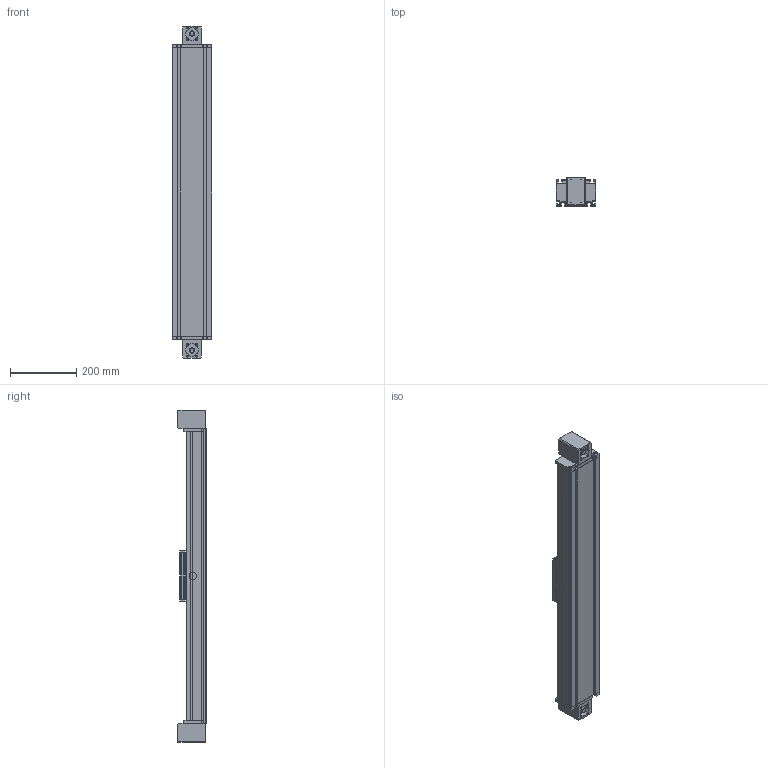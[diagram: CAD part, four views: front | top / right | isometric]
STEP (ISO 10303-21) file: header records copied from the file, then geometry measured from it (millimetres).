
FILE_DESCRIPTION (( 'STEP AP214' ), '1' );
FILE_NAME ('DLVZ120.STEP', '2022-07-22T09:59:19', ( '' ), ( '' ), 'SwSTEP 2.0', 'SolidWorks 2020', '' );
FILE_SCHEMA (( 'AUTOMOTIVE_DESIGN' ));
Length unit declared in the file: millimetre
Products named in the file (5): end plate^DLVZ120_0; timing belt reverse unit^DLVZ120_2x short shaft; profile^DLVZ120_standard; DLVZ120; carriage^DLVZ120_carriage version 0
Assembly tree (6 placements, depth 2):
  DLVZ120
    profile^DLVZ120_standard
    carriage^DLVZ120_carriage version 0
    end plate^DLVZ120_0  x2
    timing belt reverse unit^DLVZ120_2x short shaft  x2
Bounding box: 120.2 x 84.5 x 1000 mm (x, y, z)
Volume: 3983383.9 mm3; surface area: 1257289.6 mm2
Topology: 16 solids, 16 shells, 476 faces, 1224 edges, 800 vertices
Faces by surface type: plane 335, cylinder 125, bspline 8, cone 8
Entity records: 12331 total; most frequent: CARTESIAN_POINT 2493, ORIENTED_EDGE 1942, DIRECTION 1849, EDGE_CURVE 971, LINE 805, VECTOR 805, VERTEX_POINT 638, AXIS2_PLACEMENT_3D 522
